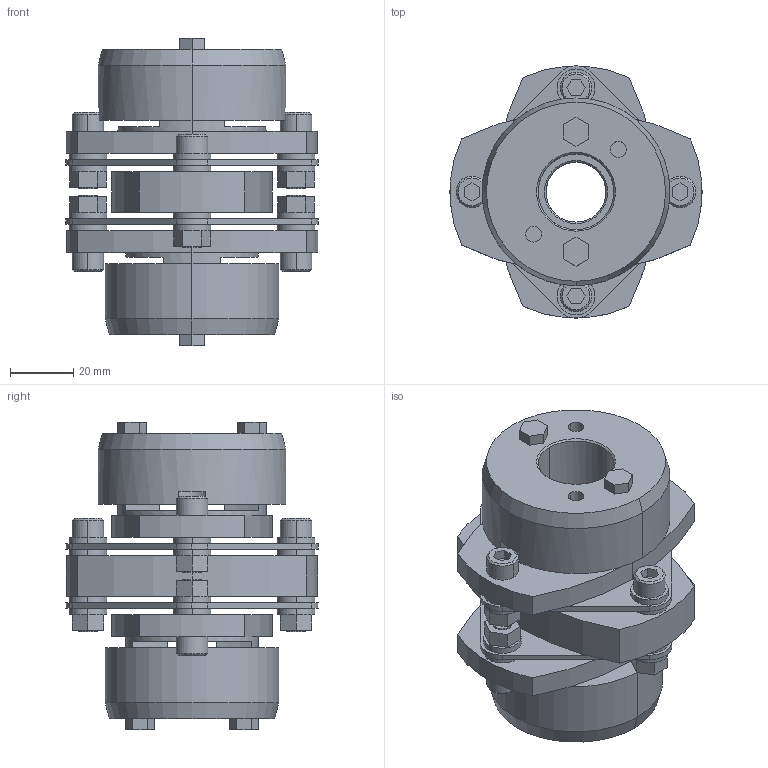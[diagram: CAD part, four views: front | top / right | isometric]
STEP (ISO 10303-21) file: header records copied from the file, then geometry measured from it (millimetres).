
FILE_DESCRIPTION((''),'2;1');
FILE_NAME('LCD-80T7-19×24.stp','2011-09-15T13:34:24',(''),(''),'AutoCAD STEP 2000i','AutoCAD 2000i',', , ');
FILE_SCHEMA(('CONFIG_CONTROL_DESIGN'));
Length unit declared in the file: millimetre
Products named in the file (9): LCD-80T7-19×24; 忣兜1; LC80T7-T024; LC80T7-T022; LC80T7-T019-1; LC80T7-T019; LC80T7-T017-1; LC80T7-T017; LCD80-ITA
Assembly tree (8 placements, depth 2):
  LCD-80T7-19×24
    忣兜1
    LC80T7-T024
    LC80T7-T022
    LC80T7-T019-1
    LC80T7-T019
    LC80T7-T017-1
    LC80T7-T017
    LCD80-ITA
Bounding box: 80 x 79.95 x 97.5 mm (x, y, z)
Volume: 196412.3 mm3; surface area: 58923.6 mm2
Topology: 1 solids, 1 shells, 310 faces, 756 edges, 496 vertices
Faces by surface type: plane 164, cylinder 122, cone 24
Entity records: 9415 total; most frequent: DIRECTION 1682, CARTESIAN_POINT 1571, ORIENTED_EDGE 1512, EDGE_CURVE 756, AXIS2_PLACEMENT_3D 607, VERTEX_POINT 496, VECTOR 468, LINE 468
